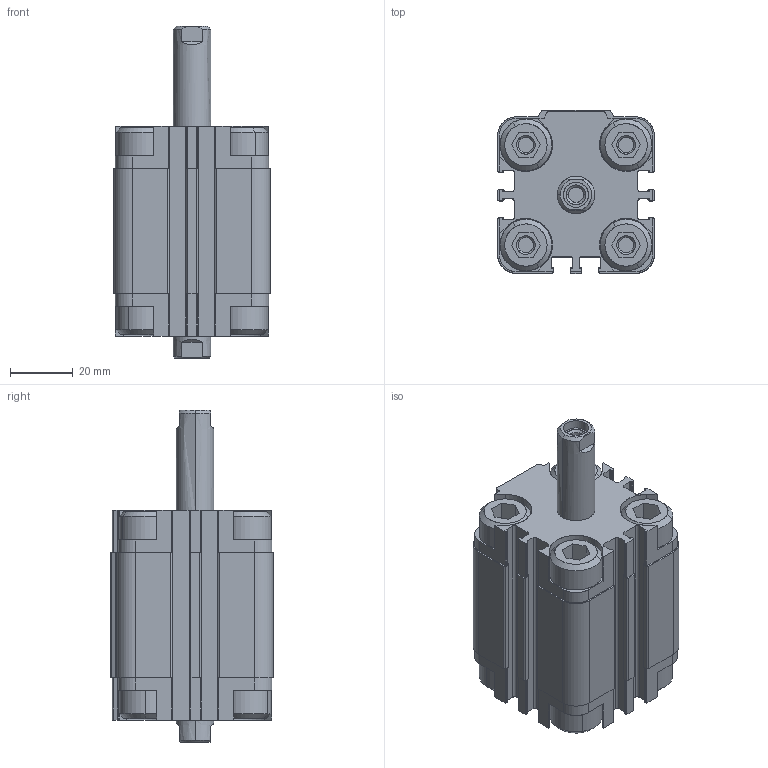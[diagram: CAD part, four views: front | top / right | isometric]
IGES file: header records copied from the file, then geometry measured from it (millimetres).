
Start section: SolidWorks IGES file using analytic representation for surfaces
Global section: file name: K:\Disegni Esecutivi\Cilindri\2_DISEGNI_cilindri_in_produzione\5_Cilindri Compatti\complessivicompatti\QJ\QJ032\QJ032PARTI\QJ032_iges\QJ0320025A.igs; native system: SolidWorks 2011; preprocessor: SolidWorks 2011; author: Cad01; date: 110922.101123; units: millimetre
Bounding box: 50 x 52 x 106 mm (x, y, z)
Surface area: 32020.4 mm2 (no closed solid volume)
Topology: 0 solids, 0 shells, 528 faces, 5590 edges, 5590 vertices
Faces by surface type: bspline 278, revolution 250
